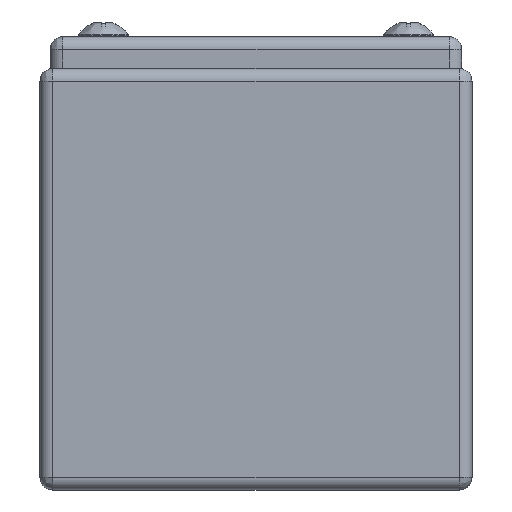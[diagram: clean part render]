
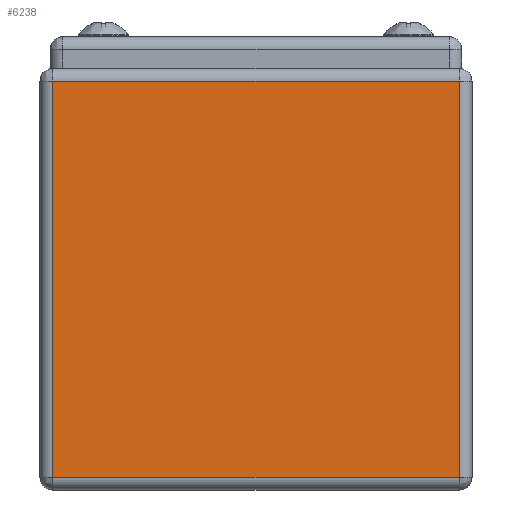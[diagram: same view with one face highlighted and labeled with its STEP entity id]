
A CAD part, front view. The second image highlights one B-rep face of the part: STEP entity #6238.
In plain terms, the highlighted planar face has unit normal (0, -1, 0).
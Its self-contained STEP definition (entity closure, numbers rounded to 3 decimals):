
#691 = DIRECTION ( 'NONE',  ( -1., 0., 0. ) ) ;
#1534 = LINE ( 'NONE', #10849, #13562 ) ;
#2162 = ORIENTED_EDGE ( 'NONE', *, *, #11972, .F. ) ;
#2200 = VERTEX_POINT ( 'NONE', #13513 ) ;
#3604 = EDGE_LOOP ( 'NONE', ( #13468, #20109, #4838, #2162 ) ) ;
#4145 = DIRECTION ( 'NONE',  ( 1., 0., 0. ) ) ;
#4344 = DIRECTION ( 'NONE',  ( 0., 0., 1. ) ) ;
#4644 = CARTESIAN_POINT ( 'NONE',  ( 2.4, 0., 77.6 ) ) ;
#4838 = ORIENTED_EDGE ( 'NONE', *, *, #18537, .F. ) ;
#5044 = EDGE_CURVE ( 'NONE', #12084, #11320, #14488, .T. ) ;
#5385 = CARTESIAN_POINT ( 'NONE',  ( 0., 0., 2.4 ) ) ;
#6238 = ADVANCED_FACE ( 'NONE', ( #13588 ), #6333, .F. ) ;
#6333 = PLANE ( 'NONE',  #14126 ) ;
#7341 = CARTESIAN_POINT ( 'NONE',  ( 0., 0., 77.6 ) ) ;
#9727 = DIRECTION ( 'NONE',  ( 0., 0., -1. ) ) ;
#10849 = CARTESIAN_POINT ( 'NONE',  ( 2.4, 0., 78.8 ) ) ;
#11320 = VERTEX_POINT ( 'NONE', #13188 ) ;
#11972 = EDGE_CURVE ( 'NONE', #2200, #13849, #13667, .T. ) ;
#12024 = CARTESIAN_POINT ( 'NONE',  ( 2.4, 0., 2.4 ) ) ;
#12084 = VERTEX_POINT ( 'NONE', #4644 ) ;
#12461 = DIRECTION ( 'NONE',  ( 0., 0., 1. ) ) ;
#12918 = VECTOR ( 'NONE', #691, 1000. ) ;
#13188 = CARTESIAN_POINT ( 'NONE',  ( 79.6, 0., 77.6 ) ) ;
#13468 = ORIENTED_EDGE ( 'NONE', *, *, #17744, .F. ) ;
#13513 = CARTESIAN_POINT ( 'NONE',  ( 79.6, 0., 2.4 ) ) ;
#13562 = VECTOR ( 'NONE', #12461, 1000. ) ;
#13588 = FACE_OUTER_BOUND ( 'NONE', #3604, .T. ) ;
#13667 = LINE ( 'NONE', #5385, #12918 ) ;
#13849 = VERTEX_POINT ( 'NONE', #12024 ) ;
#14126 = AXIS2_PLACEMENT_3D ( 'NONE', #15703, #17232, #4344 ) ;
#14488 = LINE ( 'NONE', #7341, #17678 ) ;
#15097 = VECTOR ( 'NONE', #9727, 1000. ) ;
#15703 = CARTESIAN_POINT ( 'NONE',  ( 0., 0., 78.8 ) ) ;
#15983 = CARTESIAN_POINT ( 'NONE',  ( 79.6, 0., 78.8 ) ) ;
#17072 = LINE ( 'NONE', #15983, #15097 ) ;
#17232 = DIRECTION ( 'NONE',  ( 0., 1., 0. ) ) ;
#17678 = VECTOR ( 'NONE', #4145, 1000. ) ;
#17744 = EDGE_CURVE ( 'NONE', #11320, #2200, #17072, .T. ) ;
#18537 = EDGE_CURVE ( 'NONE', #13849, #12084, #1534, .T. ) ;
#20109 = ORIENTED_EDGE ( 'NONE', *, *, #5044, .F. ) ;
